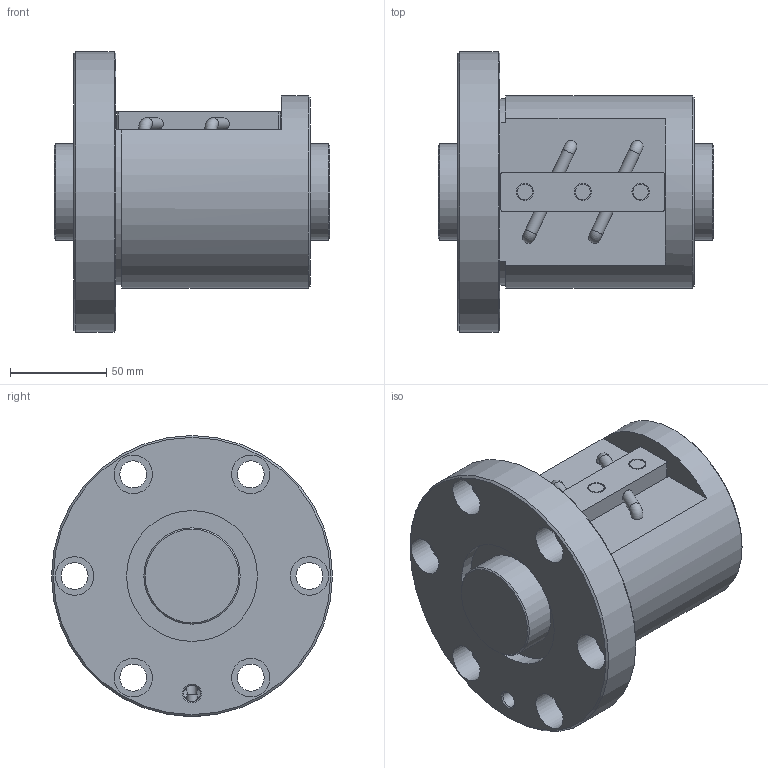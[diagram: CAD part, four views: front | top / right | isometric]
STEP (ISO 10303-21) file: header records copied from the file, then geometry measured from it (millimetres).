
FILE_DESCRIPTION(/* description */ ('STEP AP203'),/* implementation_level */ '2;1');
FILE_NAME(/* name */ 'BNF5012V-5RRG1+143LC0_000_rev',/* time_stamp */ '2024-08-06T09:09:52+02:00',/* author */ ('License CC BY-ND 4.0'),/* organization */ ('CADENAS'),/* preprocessor_version */ 'ST-DEVELOPER v19.3',/* originating_system */ 'PARTsolutions',/* authorisation */ ' ');
FILE_SCHEMA (('CONFIG_CONTROL_DESIGN'));
Length unit declared in the file: millimetre
Products named in the file (3): BNF5012V-5RRG1+143LC0_000_rev; BNF 5012-5RR000 Shaft; BNF 5012-5RR Nut
Assembly tree (2 placements, depth 2):
  BNF5012V-5RRG1+143LC0_000_rev
    BNF 5012-5RR000 Shaft
    BNF 5012-5RR Nut
Bounding box: 143 x 146 x 146 mm (x, y, z)
Volume: 1079695 mm3; surface area: 128780.1 mm2
Topology: 2 solids, 2 shells, 78 faces, 172 edges, 113 vertices
Faces by surface type: cylinder 37, plane 29, cone 8, torus 4
Full cylindrical faces by diameter (mm): 5.5 x2, 6.198 x4, 8 x3, 8.566 x1, 9 x3, 14 x6, 20 x6, 50 x2, 68 x2, 100 x1, 146 x1
Entity records: 2001 total; most frequent: DIRECTION 352, CARTESIAN_POINT 351, ORIENTED_EDGE 230, AXIS2_PLACEMENT_3D 164, EDGE_LOOP 160, FACE_BOUND 160, EDGE_CURVE 115, VERTEX_POINT 99
